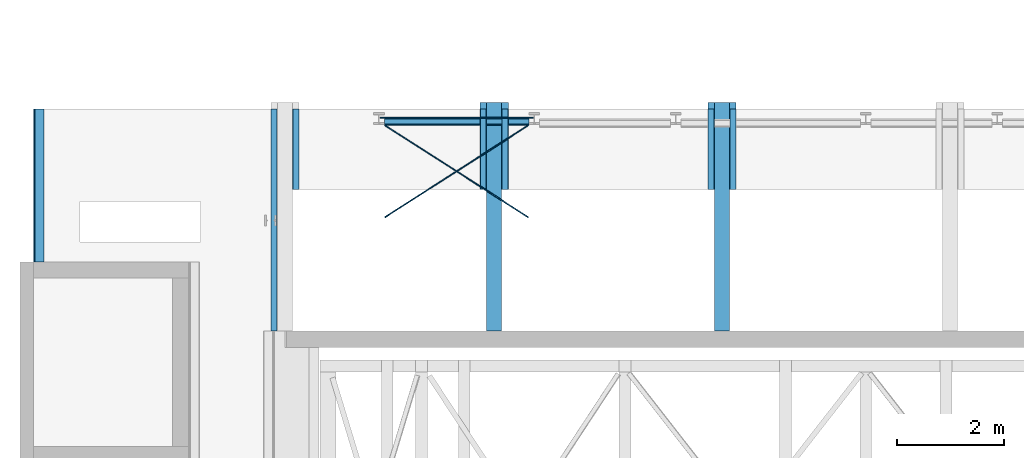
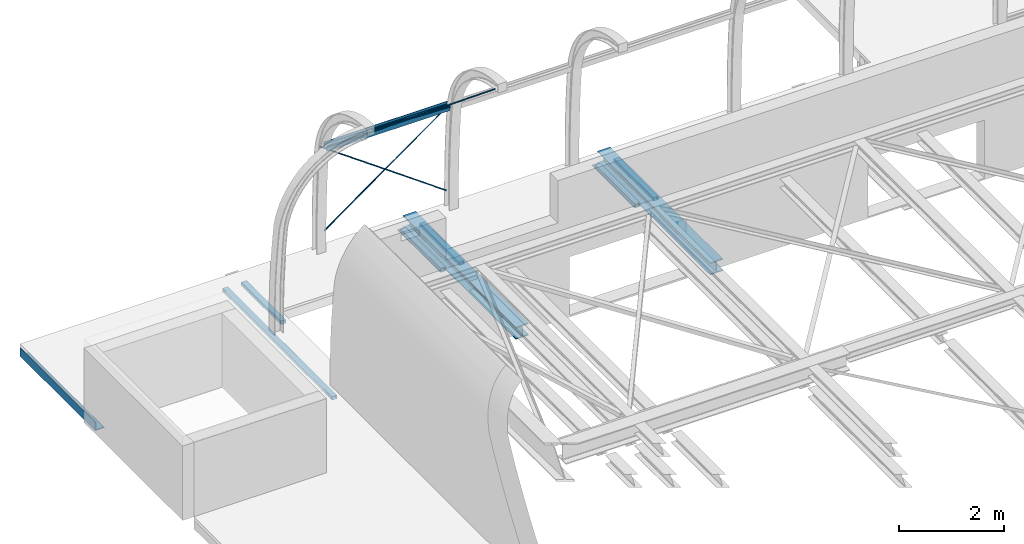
# One storey, part 22 of 38: 14 beams.
"""IFC2X3 building model written with IfcOpenShell, lengths in millimetres."""

from ifc_helpers import new_model, entity, si_unit, converted_unit, derived_unit, direction, frame, frame_2d, origin, origin_2d_with_axis, place, context, subcontext, project, spatial, polyline, circle_curve, parameter, trimmed, segment, composite_curve, rectangle, circle, i_section, outline, extrude, source, transform, mapped, material, material_list, type_object, type_shapes, element, save


model = new_model("IFC2X3")

# Units and contexts
model_context = context("Model", 3, precision=0.01, world=origin(), true_north=direction((6.12303176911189e-17, 1.0)))
body_context = subcontext(model_context, "Body", "Model", "MODEL_VIEW")
ifc_project = project(units=[si_unit("LENGTHUNIT", "METRE", prefix="MILLI"), si_unit("AREAUNIT", "SQUARE_METRE", prefix="MILLI"), si_unit("VOLUMEUNIT", "CUBIC_METRE"), converted_unit("PLANEANGLEUNIT", "DEGREE", entity("IfcRatioMeasure", 0.0174532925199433), si_unit("PLANEANGLEUNIT", "RADIAN"), dimensions=[0, 0, 0, 0, 0, 0, 0]), si_unit("MASSUNIT", "GRAM", prefix="KILO"), derived_unit("MASSDENSITYUNIT", [(si_unit("MASSUNIT", "GRAM", prefix="KILO"), 1), (si_unit("LENGTHUNIT", "METRE"), -3)]), derived_unit("MOMENTOFINERTIAUNIT", [(si_unit("LENGTHUNIT", "METRE"), 4)]), si_unit("TIMEUNIT", "SECOND"), si_unit("FREQUENCYUNIT", "HERTZ"), si_unit("THERMODYNAMICTEMPERATUREUNIT", "DEGREE_CELSIUS"), derived_unit("THERMALTRANSMITTANCEUNIT", [(si_unit("MASSUNIT", "GRAM", prefix="KILO"), 1), (si_unit("THERMODYNAMICTEMPERATUREUNIT", "KELVIN"), -1), (si_unit("TIMEUNIT", "SECOND"), -3)]), derived_unit("VOLUMETRICFLOWRATEUNIT", [(si_unit("LENGTHUNIT", "METRE"), 3), (si_unit("TIMEUNIT", "SECOND"), -1)]), si_unit("ELECTRICCURRENTUNIT", "AMPERE"), si_unit("ELECTRICVOLTAGEUNIT", "VOLT"), si_unit("POWERUNIT", "WATT"), si_unit("FORCEUNIT", "NEWTON", prefix="KILO"), si_unit("ILLUMINANCEUNIT", "LUX"), si_unit("LUMINOUSFLUXUNIT", "LUMEN"), si_unit("LUMINOUSINTENSITYUNIT", "CANDELA"), derived_unit("USERDEFINED", [(si_unit("MASSUNIT", "GRAM", prefix="KILO"), -1), (si_unit("LENGTHUNIT", "METRE"), -2), (si_unit("TIMEUNIT", "SECOND"), 3), (si_unit("LUMINOUSFLUXUNIT", "LUMEN"), 1)]), derived_unit("LINEARVELOCITYUNIT", [(si_unit("LENGTHUNIT", "METRE"), 1), (si_unit("TIMEUNIT", "SECOND"), -1)]), si_unit("PRESSUREUNIT", "PASCAL"), derived_unit("USERDEFINED", [(si_unit("LENGTHUNIT", "METRE"), -2), (si_unit("MASSUNIT", "GRAM", prefix="KILO"), 1), (si_unit("TIMEUNIT", "SECOND"), -2)]), derived_unit("LINEARFORCEUNIT", [(si_unit("MASSUNIT", "GRAM", prefix="KILO"), 1), (si_unit("LENGTHUNIT", "METRE"), 1), (si_unit("TIMEUNIT", "SECOND"), -2), (si_unit("LENGTHUNIT", "METRE"), -1)]), derived_unit("PLANARFORCEUNIT", [(si_unit("MASSUNIT", "GRAM", prefix="KILO"), 1), (si_unit("LENGTHUNIT", "METRE"), 1), (si_unit("TIMEUNIT", "SECOND"), -2), (si_unit("LENGTHUNIT", "METRE"), -2)])], contexts=[model_context])

# Site, building, storey
site_placement = place(None, origin())
site = spatial("IfcSite", under=ifc_project, at=site_placement, Name="Theater aan de Parade", CompositionType="ELEMENT")
building_placement = place(site_placement, origin())
building = spatial("IfcBuilding", under=site, at=building_placement, Name="Theater aan de Parade", CompositionType="ELEMENT")
storey_placement = place(building_placement, frame((0.0, 0.0, 12480.0)))
storey = spatial("IfcBuildingStorey", under=building, at=storey_placement, Name="03 derde verdieping", CompositionType="ELEMENT", Elevation=12480.0)

# Beams
ifc_material_1 = material(Name="00_PBT_MAT_staal_S355")
beam_type_1 = type_object("IfcBeamType", Name="28_PBT_SF_staal_H-profiel:S355_HE140A", PredefinedType="NOTDEFINED")
beam_1_placement = place(storey_placement, frame((17109.527749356, 45200.4717966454, 2025.14938682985)))
element("IfcBeam", 1, at=beam_1_placement, inside=storey, type_object=beam_type_1, material=ifc_material_1, Name="28_PBT_SF_staal_H-profiel:S355_HE140A", ObjectType="28_PBT_SF_staal_H-profiel:S355_HE140A", context=body_context, shape_type="SweptSolid", body=[
    extrude(i_section(OverallWidth=140.000000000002, OverallDepth=133.000000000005, WebThickness=5.49999999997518, FlangeThickness=8.50000000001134, FilletRadius=11.9999999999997, at=frame_2d((-1.84741111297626e-13, -1.08002495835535e-12), x_axis=(0.0, 1.0))), frame((0.0, 291.271993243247, 49.8083923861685), z_axis=(1.0, 0.0, 0.0), x_axis=(0.0, -0.985692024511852, -0.168556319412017)), (0.0, 0.0, 1.0), 2702.24451945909),
])
beam_type_2 = type_object("IfcBeamType", Name="28_PBT_SF_staal_L-profiel:S355_L200x200x20", PredefinedType="NOTDEFINED")
beam_2_placement = place(storey_placement, frame((10610.9125537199, 42870.0, 0.0), z_axis=(0.0, 0.0, 1.0), x_axis=(0.0, 1.0, 0.0)))
element("IfcBeam", 2, at=beam_2_placement, inside=storey, type_object=beam_type_2, material=ifc_material_1, Name="28_PBT_SF_staal_L-profiel:S355_L200x200x20", ObjectType="28_PBT_SF_staal_L-profiel:S355_L200x200x20", context=body_context, shape_type="SweptSolid", body=[
    extrude(outline(composite_curve([segment(polyline([(64.5555555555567, -124.444444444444), (75.5555555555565, -124.444444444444)]), True, "CONTINUOUS"), segment(polyline([(75.5555555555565, -124.444444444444), (75.5555555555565, 75.5555555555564)]), True, "CONTINUOUS"), segment(polyline([(75.5555555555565, 75.5555555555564), (-124.444444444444, 75.5555555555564)]), True, "CONTINUOUS"), segment(polyline([(-124.444444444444, 75.5555555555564), (-124.444444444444, 64.5555555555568)]), True, "CONTINUOUS"), segment(trimmed(circle_curve(frame_2d((-115.444444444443, 64.5555555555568), x_axis=(-1.0, 0.0)), 8.99999999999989), [parameter(0.0)], [parameter(90.0000000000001)], True, "PARAMETER"), True, "CONTINUOUS"), segment(polyline([(-115.444444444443, 55.5555555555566), (37.5555555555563, 55.5555555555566)]), True, "CONTINUOUS"), segment(trimmed(circle_curve(frame_2d((37.5555555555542, 37.5555555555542), x_axis=(0.0, 1.0)), 18.0000000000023), [parameter(270.000000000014)], [parameter(0.0)], True, "PARAMETER"), False, "CONTINUOUS"), segment(polyline([(55.5555555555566, 37.5555555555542), (55.5555555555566, -115.444444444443)]), True, "CONTINUOUS"), segment(trimmed(circle_curve(frame_2d((64.5555555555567, -115.444444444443), x_axis=(-1.0, 0.0)), 9.00000000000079), [parameter(0.0)], [parameter(90.0000000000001)], True, "PARAMETER"), True, "CONTINUOUS")], self_intersect=False)), frame((0.0, -18.7555555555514, -549.444444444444), z_axis=(1.0, 0.0, 0.0), x_axis=(0.0, 0.0, -1.0)), (0.0, 0.0, 1.0), 2852.99999999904),
])
ifc_material_2 = material(Name="00_PBT_MAT_staal_S235")
beam_type_3 = type_object("IfcBeamType", Name="28_PBT_SF_staal_koker:S235_K80x120x6.3", PredefinedType="NOTDEFINED")
beam_3_placement = place(storey_placement, frame((15458.857634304, 44223.308327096, 0.0), z_axis=(0.0, 0.0, 1.0), x_axis=(0.0, 1.0, 0.0)))
element("IfcBeam", 3, at=beam_3_placement, inside=storey, type_object=beam_type_3, material=ifc_material_2, Name="28_PBT_SF_staal_koker:S235_K80x120x6.3", ObjectType="28_PBT_SF_staal_koker:S235_K80x120x6.3", context=body_context, shape_type="SweptSolid", body=[
    extrude(outline(composite_curve([segment(trimmed(circle_curve(frame_2d((-50.5499999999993, -30.5500000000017), x_axis=(1.0, 0.0)), 9.45), [parameter(180.0)], [parameter(270.0)], True, "PARAMETER"), True, "CONTINUOUS"), segment(polyline([(-50.5499999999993, -40.0), (50.5499999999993, -40.0)]), True, "CONTINUOUS"), segment(trimmed(circle_curve(frame_2d((50.5499999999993, -30.5500000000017), x_axis=(1.0, 0.0)), 9.45), [parameter(270.0)], [parameter(0.0)], True, "PARAMETER"), True, "CONTINUOUS"), segment(polyline([(60.0, -30.5500000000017), (60.0, 30.5499999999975)]), True, "CONTINUOUS"), segment(trimmed(circle_curve(frame_2d((50.5499999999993, 30.5499999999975), x_axis=(1.0, 0.0)), 9.45), [parameter(3.56222124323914e-13)], [parameter(90.0000000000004)], True, "PARAMETER"), True, "CONTINUOUS"), segment(polyline([(50.5499999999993, 40.0), (-50.5499999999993, 40.0)]), True, "CONTINUOUS"), segment(trimmed(circle_curve(frame_2d((-50.5499999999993, 30.5499999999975), x_axis=(1.0, 0.0)), 9.45), [parameter(90.0000000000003)], [parameter(180.0)], True, "PARAMETER"), True, "CONTINUOUS"), segment(polyline([(-60.0, 30.5499999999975), (-60.0, -30.5500000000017)]), True, "CONTINUOUS")], self_intersect=False), holes=[composite_curve([segment(trimmed(circle_curve(frame_2d((47.4, 27.3999999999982), x_axis=(1.0, 0.0)), 6.3), [parameter(5.08888749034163e-14)], [parameter(90.0000000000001)], True, "PARAMETER"), False, "CONTINUOUS"), segment(polyline([(53.7000000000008, 27.3999999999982), (53.7000000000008, -27.4000000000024)]), True, "CONTINUOUS"), segment(trimmed(circle_curve(frame_2d((47.4, -27.4000000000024), x_axis=(1.0, 0.0)), 6.3), [parameter(269.999999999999)], [parameter(360.0)], True, "PARAMETER"), False, "CONTINUOUS"), segment(polyline([(47.4, -33.7000000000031), (-47.4000000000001, -33.7000000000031)]), True, "CONTINUOUS"), segment(trimmed(circle_curve(frame_2d((-47.4000000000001, -27.4000000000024), x_axis=(1.0, 0.0)), 6.3), [parameter(180.0)], [parameter(270.0)], True, "PARAMETER"), False, "CONTINUOUS"), segment(polyline([(-53.7000000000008, -27.4000000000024), (-53.7000000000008, 27.3999999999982)]), True, "CONTINUOUS"), segment(trimmed(circle_curve(frame_2d((-47.4000000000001, 27.3999999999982), x_axis=(1.0, 0.0)), 6.3), [parameter(89.9999999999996)], [parameter(180.0)], True, "PARAMETER"), False, "CONTINUOUS"), segment(polyline([(-47.4000000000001, 33.6999999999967), (47.4, 33.6999999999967)]), True, "CONTINUOUS")], self_intersect=False)]), frame((0.0, 0.0, -645.0), z_axis=(1.0, 0.0, 0.0), x_axis=(0.0, 1.0, 0.0)), (0.0, 0.0, 1.0), 1499.69167290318),
])
beam_4_placement = place(storey_placement, frame((15048.857634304, 41573.308327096, 0.0), z_axis=(0.0, 0.0, 1.0), x_axis=(0.0, 1.0, 0.0)))
element("IfcBeam", 4, at=beam_4_placement, inside=storey, type_object=beam_type_3, material=ifc_material_2, Name="28_PBT_SF_staal_koker:S235_K80x120x6.3", ObjectType="28_PBT_SF_staal_koker:S235_K80x120x6.3", context=body_context, shape_type="SweptSolid", body=[
    extrude(outline(composite_curve([segment(polyline([(-30.5499999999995, -60.0), (30.5499999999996, -60.0)]), True, "CONTINUOUS"), segment(trimmed(circle_curve(frame_2d((30.5499999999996, -50.5499999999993), x_axis=(0.0, 1.0)), 9.45), [parameter(180.0)], [parameter(270.0)], True, "PARAMETER"), True, "CONTINUOUS"), segment(polyline([(40.0, -50.5499999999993), (40.0, 50.5499999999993)]), True, "CONTINUOUS"), segment(trimmed(circle_curve(frame_2d((30.5499999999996, 50.5499999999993), x_axis=(0.0, 1.0)), 9.45), [parameter(270.0)], [parameter(360.0)], True, "PARAMETER"), True, "CONTINUOUS"), segment(polyline([(30.5499999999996, 60.0), (-30.5499999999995, 60.0)]), True, "CONTINUOUS"), segment(trimmed(circle_curve(frame_2d((-30.5499999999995, 50.5499999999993), x_axis=(0.0, 1.0)), 9.45), [parameter(0.0)], [parameter(90.0000000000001)], True, "PARAMETER"), True, "CONTINUOUS"), segment(polyline([(-40.0, 50.5499999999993), (-40.0, -50.5499999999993)]), True, "CONTINUOUS"), segment(trimmed(circle_curve(frame_2d((-30.5499999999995, -50.5499999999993), x_axis=(0.0, 1.0)), 9.45), [parameter(90.0)], [parameter(180.0)], True, "PARAMETER"), True, "CONTINUOUS")], self_intersect=False), holes=[composite_curve([segment(polyline([(33.6999999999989, 47.4), (33.6999999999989, -47.4000000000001)]), True, "CONTINUOUS"), segment(trimmed(circle_curve(frame_2d((27.4000000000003, -47.4000000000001), x_axis=(0.0, 1.0)), 6.3), [parameter(180.0)], [parameter(270.0)], True, "PARAMETER"), False, "CONTINUOUS"), segment(polyline([(27.4000000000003, -53.7000000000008), (-27.4000000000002, -53.7000000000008)]), True, "CONTINUOUS"), segment(trimmed(circle_curve(frame_2d((-27.4000000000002, -47.4000000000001), x_axis=(0.0, 1.0)), 6.3), [parameter(90.0)], [parameter(180.0)], True, "PARAMETER"), False, "CONTINUOUS"), segment(polyline([(-33.700000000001, -47.4000000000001), (-33.700000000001, 47.4)]), True, "CONTINUOUS"), segment(trimmed(circle_curve(frame_2d((-27.4000000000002, 47.4), x_axis=(0.0, 1.0)), 6.3), [parameter(4.07110999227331e-13)], [parameter(90.0000000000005)], True, "PARAMETER"), False, "CONTINUOUS"), segment(polyline([(-27.4000000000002, 53.7000000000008), (27.4000000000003, 53.7000000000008)]), True, "CONTINUOUS"), segment(trimmed(circle_curve(frame_2d((27.4000000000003, 47.4), x_axis=(0.0, 1.0)), 6.3), [parameter(270.0)], [parameter(360.0)], True, "PARAMETER"), False, "CONTINUOUS")], self_intersect=False)]), frame((0.0, 0.0, -645.0), z_axis=(1.0, 0.0, 0.0), x_axis=(0.0, 0.0, 1.0)), (0.0, 0.0, 1.0), 4149.69167290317),
])
beam_5_placement = place(storey_placement, frame((19366.7722688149, 44223.308327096, 0.0), z_axis=(0.0, 0.0, 1.0), x_axis=(0.0, 1.0, 0.0)))
element("IfcBeam", 5, at=beam_5_placement, inside=storey, type_object=beam_type_3, material=ifc_material_2, Name="28_PBT_SF_staal_koker:S235_K80x120x6.3", ObjectType="28_PBT_SF_staal_koker:S235_K80x120x6.3", context=body_context, shape_type="SweptSolid", body=[
    extrude(outline(composite_curve([segment(trimmed(circle_curve(frame_2d((-50.5499999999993, -30.5500000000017), x_axis=(1.0, 0.0)), 9.45), [parameter(180.0)], [parameter(270.0)], True, "PARAMETER"), True, "CONTINUOUS"), segment(polyline([(-50.5499999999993, -40.0), (50.5499999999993, -40.0)]), True, "CONTINUOUS"), segment(trimmed(circle_curve(frame_2d((50.5499999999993, -30.5500000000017), x_axis=(1.0, 0.0)), 9.45), [parameter(270.0)], [parameter(0.0)], True, "PARAMETER"), True, "CONTINUOUS"), segment(polyline([(60.0, -30.5500000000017), (60.0, 30.5499999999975)]), True, "CONTINUOUS"), segment(trimmed(circle_curve(frame_2d((50.5499999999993, 30.5499999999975), x_axis=(1.0, 0.0)), 9.45), [parameter(3.56222124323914e-13)], [parameter(90.0000000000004)], True, "PARAMETER"), True, "CONTINUOUS"), segment(polyline([(50.5499999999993, 40.0), (-50.5499999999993, 40.0)]), True, "CONTINUOUS"), segment(trimmed(circle_curve(frame_2d((-50.5499999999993, 30.5499999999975), x_axis=(1.0, 0.0)), 9.45), [parameter(90.0000000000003)], [parameter(180.0)], True, "PARAMETER"), True, "CONTINUOUS"), segment(polyline([(-60.0, 30.5499999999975), (-60.0, -30.5500000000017)]), True, "CONTINUOUS")], self_intersect=False), holes=[composite_curve([segment(trimmed(circle_curve(frame_2d((47.4, 27.3999999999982), x_axis=(1.0, 0.0)), 6.3), [parameter(5.08888749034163e-14)], [parameter(90.0000000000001)], True, "PARAMETER"), False, "CONTINUOUS"), segment(polyline([(53.7000000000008, 27.3999999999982), (53.7000000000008, -27.4000000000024)]), True, "CONTINUOUS"), segment(trimmed(circle_curve(frame_2d((47.4, -27.4000000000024), x_axis=(1.0, 0.0)), 6.3), [parameter(269.999999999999)], [parameter(360.0)], True, "PARAMETER"), False, "CONTINUOUS"), segment(polyline([(47.4, -33.7000000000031), (-47.4000000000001, -33.7000000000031)]), True, "CONTINUOUS"), segment(trimmed(circle_curve(frame_2d((-47.4000000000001, -27.4000000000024), x_axis=(1.0, 0.0)), 6.3), [parameter(180.0)], [parameter(270.0)], True, "PARAMETER"), False, "CONTINUOUS"), segment(polyline([(-53.7000000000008, -27.4000000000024), (-53.7000000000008, 27.3999999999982)]), True, "CONTINUOUS"), segment(trimmed(circle_curve(frame_2d((-47.4000000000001, 27.3999999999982), x_axis=(1.0, 0.0)), 6.3), [parameter(89.9999999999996)], [parameter(180.0)], True, "PARAMETER"), False, "CONTINUOUS"), segment(polyline([(-47.4000000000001, 33.6999999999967), (47.4, 33.6999999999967)]), True, "CONTINUOUS")], self_intersect=False)]), frame((0.0, 0.0, -645.0), z_axis=(1.0, 0.0, 0.0), x_axis=(0.0, 1.0, 0.0)), (0.0, 0.0, 1.0), 1499.69167290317),
])
beam_6_placement = place(storey_placement, frame((18956.772268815, 44223.308327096, 0.0), z_axis=(0.0, 0.0, 1.0), x_axis=(0.0, 1.0, 0.0)))
element("IfcBeam", 6, at=beam_6_placement, inside=storey, type_object=beam_type_3, material=ifc_material_2, Name="28_PBT_SF_staal_koker:S235_K80x120x6.3", ObjectType="28_PBT_SF_staal_koker:S235_K80x120x6.3", context=body_context, shape_type="SweptSolid", body=[
    extrude(outline(composite_curve([segment(polyline([(-30.5499999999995, -60.0), (30.5499999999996, -60.0)]), True, "CONTINUOUS"), segment(trimmed(circle_curve(frame_2d((30.5499999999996, -50.5499999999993), x_axis=(0.0, 1.0)), 9.45), [parameter(180.0)], [parameter(270.0)], True, "PARAMETER"), True, "CONTINUOUS"), segment(polyline([(40.0, -50.5499999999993), (40.0, 50.5499999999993)]), True, "CONTINUOUS"), segment(trimmed(circle_curve(frame_2d((30.5499999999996, 50.5499999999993), x_axis=(0.0, 1.0)), 9.45), [parameter(270.0)], [parameter(360.0)], True, "PARAMETER"), True, "CONTINUOUS"), segment(polyline([(30.5499999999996, 60.0), (-30.5499999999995, 60.0)]), True, "CONTINUOUS"), segment(trimmed(circle_curve(frame_2d((-30.5499999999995, 50.5499999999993), x_axis=(0.0, 1.0)), 9.45), [parameter(0.0)], [parameter(90.0000000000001)], True, "PARAMETER"), True, "CONTINUOUS"), segment(polyline([(-40.0, 50.5499999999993), (-40.0, -50.5499999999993)]), True, "CONTINUOUS"), segment(trimmed(circle_curve(frame_2d((-30.5499999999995, -50.5499999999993), x_axis=(0.0, 1.0)), 9.45), [parameter(90.0)], [parameter(180.0)], True, "PARAMETER"), True, "CONTINUOUS")], self_intersect=False), holes=[composite_curve([segment(polyline([(33.6999999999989, 47.4), (33.6999999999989, -47.4000000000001)]), True, "CONTINUOUS"), segment(trimmed(circle_curve(frame_2d((27.4000000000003, -47.4000000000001), x_axis=(0.0, 1.0)), 6.3), [parameter(180.0)], [parameter(270.0)], True, "PARAMETER"), False, "CONTINUOUS"), segment(polyline([(27.4000000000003, -53.7000000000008), (-27.4000000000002, -53.7000000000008)]), True, "CONTINUOUS"), segment(trimmed(circle_curve(frame_2d((-27.4000000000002, -47.4000000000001), x_axis=(0.0, 1.0)), 6.3), [parameter(90.0)], [parameter(180.0)], True, "PARAMETER"), False, "CONTINUOUS"), segment(polyline([(-33.700000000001, -47.4000000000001), (-33.700000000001, 47.4)]), True, "CONTINUOUS"), segment(trimmed(circle_curve(frame_2d((-27.4000000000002, 47.4), x_axis=(0.0, 1.0)), 6.3), [parameter(4.07110999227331e-13)], [parameter(90.0000000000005)], True, "PARAMETER"), False, "CONTINUOUS"), segment(polyline([(-27.4000000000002, 53.7000000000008), (27.4000000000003, 53.7000000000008)]), True, "CONTINUOUS"), segment(trimmed(circle_curve(frame_2d((27.4000000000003, 47.4), x_axis=(0.0, 1.0)), 6.3), [parameter(270.0)], [parameter(360.0)], True, "PARAMETER"), False, "CONTINUOUS")], self_intersect=False)]), frame((0.0, 0.0, -645.0), z_axis=(1.0, 0.0, 0.0), x_axis=(0.0, 0.0, 1.0)), (0.0, 0.0, 1.0), 1499.69167290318),
])
beam_7_placement = place(storey_placement, frame((23623.8556708, 44223.308327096, 0.0), z_axis=(0.0, 0.0, 1.0), x_axis=(0.0, 1.0, 0.0)))
element("IfcBeam", 7, at=beam_7_placement, inside=storey, type_object=beam_type_3, material=ifc_material_2, Name="28_PBT_SF_staal_koker:S235_K80x120x6.3", ObjectType="28_PBT_SF_staal_koker:S235_K80x120x6.3", context=body_context, shape_type="SweptSolid", body=[
    extrude(outline(composite_curve([segment(trimmed(circle_curve(frame_2d((-50.5499999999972, -30.5500000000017), x_axis=(1.0, 0.0)), 9.45), [parameter(180.0)], [parameter(270.0)], True, "PARAMETER"), True, "CONTINUOUS"), segment(polyline([(-50.5500000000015, -40.0), (50.5500000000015, -40.0)]), True, "CONTINUOUS"), segment(trimmed(circle_curve(frame_2d((50.5500000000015, -30.5500000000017), x_axis=(1.0, 0.0)), 9.45), [parameter(270.0)], [parameter(0.0)], True, "PARAMETER"), True, "CONTINUOUS"), segment(polyline([(60.0, -30.5500000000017), (60.0, 30.5499999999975)]), True, "CONTINUOUS"), segment(trimmed(circle_curve(frame_2d((50.5500000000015, 30.5499999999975), x_axis=(1.0, 0.0)), 9.45), [parameter(3.56222124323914e-13)], [parameter(90.0000000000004)], True, "PARAMETER"), True, "CONTINUOUS"), segment(polyline([(50.5500000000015, 40.0), (-50.5500000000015, 40.0)]), True, "CONTINUOUS"), segment(trimmed(circle_curve(frame_2d((-50.5499999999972, 30.5499999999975), x_axis=(1.0, 0.0)), 9.45), [parameter(90.0000000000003)], [parameter(180.0)], True, "PARAMETER"), True, "CONTINUOUS"), segment(polyline([(-60.0, 30.5499999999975), (-60.0, -30.5500000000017)]), True, "CONTINUOUS")], self_intersect=False), holes=[composite_curve([segment(trimmed(circle_curve(frame_2d((47.4000000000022, 27.3999999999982), x_axis=(1.0, 0.0)), 6.3), [parameter(5.08888749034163e-14)], [parameter(90.0000000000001)], True, "PARAMETER"), False, "CONTINUOUS"), segment(polyline([(53.7000000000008, 27.3999999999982), (53.7000000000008, -27.4000000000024)]), True, "CONTINUOUS"), segment(trimmed(circle_curve(frame_2d((47.4000000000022, -27.4000000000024), x_axis=(1.0, 0.0)), 6.3), [parameter(269.999999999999)], [parameter(360.0)], True, "PARAMETER"), False, "CONTINUOUS"), segment(polyline([(47.3999999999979, -33.7000000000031), (-47.3999999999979, -33.7000000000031)]), True, "CONTINUOUS"), segment(trimmed(circle_curve(frame_2d((-47.3999999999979, -27.4000000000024), x_axis=(1.0, 0.0)), 6.3), [parameter(180.0)], [parameter(270.0)], True, "PARAMETER"), False, "CONTINUOUS"), segment(polyline([(-53.7000000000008, -27.4000000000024), (-53.7000000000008, 27.3999999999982)]), True, "CONTINUOUS"), segment(trimmed(circle_curve(frame_2d((-47.3999999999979, 27.3999999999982), x_axis=(1.0, 0.0)), 6.3), [parameter(89.9999999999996)], [parameter(180.0)], True, "PARAMETER"), False, "CONTINUOUS"), segment(polyline([(-47.3999999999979, 33.6999999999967), (47.3999999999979, 33.6999999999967)]), True, "CONTINUOUS")], self_intersect=False)]), frame((0.0, 0.0, -645.0), z_axis=(1.0, 0.0, 0.0), x_axis=(0.0, 1.0, 0.0)), (0.0, 0.0, 1.0), 1499.69167290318),
])
beam_8_placement = place(storey_placement, frame((23213.8556708, 44223.308327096, 0.0), z_axis=(0.0, 0.0, 1.0), x_axis=(0.0, 1.0, 0.0)))
element("IfcBeam", 8, at=beam_8_placement, inside=storey, type_object=beam_type_3, material=ifc_material_2, Name="28_PBT_SF_staal_koker:S235_K80x120x6.3", ObjectType="28_PBT_SF_staal_koker:S235_K80x120x6.3", context=body_context, shape_type="SweptSolid", body=[
    extrude(outline(composite_curve([segment(polyline([(-30.5499999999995, -60.0), (30.5499999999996, -60.0)]), True, "CONTINUOUS"), segment(trimmed(circle_curve(frame_2d((30.5499999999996, -50.5500000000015), x_axis=(0.0, 1.0)), 9.45), [parameter(180.0)], [parameter(270.0)], True, "PARAMETER"), True, "CONTINUOUS"), segment(polyline([(40.0, -50.5500000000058), (40.0, 50.5499999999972)]), True, "CONTINUOUS"), segment(trimmed(circle_curve(frame_2d((30.5499999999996, 50.5499999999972), x_axis=(0.0, 1.0)), 9.45), [parameter(270.0)], [parameter(360.0)], True, "PARAMETER"), True, "CONTINUOUS"), segment(polyline([(30.5499999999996, 60.0), (-30.5499999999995, 60.0)]), True, "CONTINUOUS"), segment(trimmed(circle_curve(frame_2d((-30.5499999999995, 50.5499999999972), x_axis=(0.0, 1.0)), 9.45), [parameter(0.0)], [parameter(90.0000000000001)], True, "PARAMETER"), True, "CONTINUOUS"), segment(polyline([(-40.0, 50.5499999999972), (-40.0, -50.5500000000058)]), True, "CONTINUOUS"), segment(trimmed(circle_curve(frame_2d((-30.5499999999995, -50.5500000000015), x_axis=(0.0, 1.0)), 9.45), [parameter(90.0)], [parameter(180.0)], True, "PARAMETER"), True, "CONTINUOUS")], self_intersect=False), holes=[composite_curve([segment(polyline([(33.6999999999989, 47.3999999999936), (33.6999999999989, -47.4000000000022)]), True, "CONTINUOUS"), segment(trimmed(circle_curve(frame_2d((27.4000000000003, -47.4000000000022), x_axis=(0.0, 1.0)), 6.3), [parameter(180.0)], [parameter(270.0)], True, "PARAMETER"), False, "CONTINUOUS"), segment(polyline([(27.4000000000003, -53.7000000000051), (-27.4000000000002, -53.7000000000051)]), True, "CONTINUOUS"), segment(trimmed(circle_curve(frame_2d((-27.4000000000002, -47.4000000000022), x_axis=(0.0, 1.0)), 6.3), [parameter(90.0)], [parameter(180.0)], True, "PARAMETER"), False, "CONTINUOUS"), segment(polyline([(-33.700000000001, -47.4000000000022), (-33.700000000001, 47.3999999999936)]), True, "CONTINUOUS"), segment(trimmed(circle_curve(frame_2d((-27.4000000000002, 47.3999999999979), x_axis=(0.0, 1.0)), 6.3), [parameter(4.07110999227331e-13)], [parameter(90.0000000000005)], True, "PARAMETER"), False, "CONTINUOUS"), segment(polyline([(-27.4000000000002, 53.6999999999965), (27.4000000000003, 53.6999999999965)]), True, "CONTINUOUS"), segment(trimmed(circle_curve(frame_2d((27.4000000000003, 47.3999999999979), x_axis=(0.0, 1.0)), 6.3), [parameter(270.0)], [parameter(360.0)], True, "PARAMETER"), False, "CONTINUOUS")], self_intersect=False)]), frame((0.0, 0.0, -645.0), z_axis=(1.0, 0.0, 0.0), x_axis=(0.0, 0.0, 1.0)), (0.0, 0.0, 1.0), 1499.69167290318),
])
ifc_material_3 = material(Name="00_PBT_MAT_Lucht")
ifc_material_list_1 = material_list([ifc_material_3, ifc_material_1])
beam_type_4 = type_object("IfcBeamType", Name="28_PBT_SF_staal_H-profiel_met_onderplaat (void):S355_HE280B + onderplaat d=15", PredefinedType="BEAM", material=ifc_material_list_1)
shared_shape_1 = source(origin(), body_context, "Body", "SweptSolid", [
    extrude(i_section(OverallWidth=280.000000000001, OverallDepth=280.000000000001, WebThickness=10.5000000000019, FlangeThickness=18.0000000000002, FilletRadius=23.9999999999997, at=frame_2d((-2.1600499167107e-12, 0.0), x_axis=(1.0, 0.0))), frame((23418.8556708, 41573.308327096, 11935.0), z_axis=(0.0, 1.0, 0.0), x_axis=(-1.0, 0.0, 0.0)), (0.0, 0.0, 1.0), 4274.69167290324),
    extrude(rectangle(XDim=15.0000000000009, YDim=530.000000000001, at=frame_2d((0.0, 1.08268949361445e-12), x_axis=(0.0, 1.0))), frame((23418.8556708, 44223.308327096, 11787.5), z_axis=(0.0, 1.0, 0.0), x_axis=(-1.0, 0.0, 0.0)), (0.0, 0.0, 1.0), 1624.69167290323),
])
type_shapes(beam_type_4, [shared_shape_1])
beam_9_placement = place(storey_placement, frame((0.0, 0.0, -12480.0)))
element("IfcBeam", 9, at=beam_9_placement, inside=storey, type_object=beam_type_4, material=ifc_material_1, Name="28_PBT_SF_staal_H-profiel_met_onderplaat (void):S355_HE280B + onderplaat d=15", ObjectType="28_PBT_SF_staal_H-profiel_met_onderplaat (void):S355_HE280B + onderplaat d=15", context=body_context, shape_type="MappedRepresentation", body=[
    mapped(shared_shape_1, transform((0.0, 0.0, 0.0), scale=1.0)),
])
ifc_material_list_2 = material_list([ifc_material_1, ifc_material_3])
beam_type_5 = type_object("IfcBeamType", Name="28_PBT_SF_staal_H-profiel_met_onderplaat (void):S355_HE280B + onderplaat d=15", PredefinedType="BEAM", material=ifc_material_list_2)
shared_shape_2 = source(origin(), body_context, "Body", "SweptSolid", [
    extrude(i_section(OverallWidth=279.999999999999, OverallDepth=280.000000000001, WebThickness=10.4999999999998, FlangeThickness=18.0000000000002, FilletRadius=24.0000000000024, at=frame_2d((-2.1600499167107e-12, 0.0), x_axis=(1.0, 0.0))), frame((19161.7722688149, 41573.308327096, 11935.0), z_axis=(0.0, 1.0, 0.0), x_axis=(-1.0, 0.0, 0.0)), (0.0, 0.0, 1.0), 4274.69167290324),
    extrude(rectangle(XDim=15.0000000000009, YDim=529.999999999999, at=frame_2d((1.08002495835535e-12, 1.08268949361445e-12), x_axis=(0.0, 1.0))), frame((19161.7722688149, 44223.308327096, 11787.5), z_axis=(0.0, 1.0, 0.0), x_axis=(-1.0, 0.0, 0.0)), (0.0, 0.0, 1.0), 1624.69167290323),
])
type_shapes(beam_type_5, [shared_shape_2])
beam_10_placement = place(storey_placement, frame((0.0, 0.0, -12480.0)))
element("IfcBeam", 10, at=beam_10_placement, inside=storey, type_object=beam_type_5, material=ifc_material_1, Name="28_PBT_SF_staal_H-profiel_met_onderplaat (void):S355_HE280B + onderplaat d=15", ObjectType="28_PBT_SF_staal_H-profiel_met_onderplaat (void):S355_HE280B + onderplaat d=15", context=body_context, shape_type="MappedRepresentation", body=[
    mapped(shared_shape_2, transform((0.0, 0.0, 0.0), scale=1.0)),
])
beam_type_6 = type_object("IfcBeamType", Name="28_PBT_SF_staal_massief_rond:S355_D20", PredefinedType="NOTDEFINED")
beam_11_placement = place(storey_placement, frame((17009.5277493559, 43629.2767436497, 3616.29193172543), z_axis=(0.348856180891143, 0.22375346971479, 0.910073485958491), x_axis=(0.766044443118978, 0.491334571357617, -0.414446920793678)))
element("IfcBeam", 11, at=beam_11_placement, inside=storey, type_object=beam_type_6, material=ifc_material_1, Name="28_PBT_SF_staal_massief_rond:S355_D20", ObjectType="28_PBT_SF_staal_massief_rond:S355_D20", context=body_context, shape_type="SweptSolid", body=[
    extrude(circle(Radius=10.0000000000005, at=origin_2d_with_axis()), frame((151.631725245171, 0.0, 0.0), z_axis=(1.0, 0.0, 0.0), x_axis=(0.0, 0.839911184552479, -0.542723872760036)), (0.0, 0.0, 1.0), 3485.34770063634),
])
beam_12_placement = place(storey_placement, frame((19911.7722688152, 43629.2767436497, 3616.29193172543), z_axis=(-0.348856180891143, 0.22375346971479, 0.910073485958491), x_axis=(-0.766044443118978, 0.491334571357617, -0.414446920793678)))
element("IfcBeam", 12, at=beam_12_placement, inside=storey, type_object=beam_type_6, material=ifc_material_1, Name="28_PBT_SF_staal_massief_rond:S355_D20", ObjectType="28_PBT_SF_staal_massief_rond:S355_D20", context=body_context, shape_type="SweptSolid", body=[
    extrude(circle(Radius=9.99999999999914, at=origin_2d_with_axis()), frame((151.631725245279, 0.0, 0.0), z_axis=(1.0, 0.0, 0.0), x_axis=(0.0, 0.839911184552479, 0.542723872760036)), (0.0, 0.0, 1.0), 3485.34770063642),
])
beam_13_placement = place(storey_placement, frame((17035.7802537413, 45558.3619328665, 2059.87255062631), z_axis=(0.582606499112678, 0.0, 0.812754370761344), x_axis=(0.812754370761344, 0.0, -0.582606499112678)))
element("IfcBeam", 13, at=beam_13_placement, inside=storey, type_object=beam_type_6, material=ifc_material_1, Name="28_PBT_SF_staal_massief_rond:S355_D20", ObjectType="28_PBT_SF_staal_massief_rond:S355_D20", context=body_context, shape_type="SweptSolid", body=[
    extrude(circle(Radius=9.99999999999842, at=frame_2d((-9.38080975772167e-25, 3.02198083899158e-12), x_axis=(1.0, 0.0))), frame((0.0, 0.0, 0.0), z_axis=(1.0, 0.0, 0.0), x_axis=(0.0, 1.0, 0.0)), (0.0, 0.0, 1.0), 3395.66795191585),
])
beam_14_placement = place(storey_placement, frame((19885.5197644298, 45558.3619328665, 2059.87255062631), z_axis=(-0.582606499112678, 0.0, 0.812754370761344), x_axis=(-0.812754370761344, 0.0, -0.582606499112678)))
element("IfcBeam", 14, at=beam_14_placement, inside=storey, type_object=beam_type_6, material=ifc_material_1, Name="28_PBT_SF_staal_massief_rond:S355_D20", ObjectType="28_PBT_SF_staal_massief_rond:S355_D20", context=body_context, shape_type="SweptSolid", body=[
    extrude(circle(Radius=9.99999999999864, at=frame_2d((-4.69040487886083e-25, 1.76020998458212e-12), x_axis=(1.0, 0.0))), frame((0.0, 0.0, 0.0), z_axis=(1.0, 0.0, 0.0), x_axis=(0.0, 1.0, 0.0)), (0.0, 0.0, 1.0), 3395.66795191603),
])

save(model, "model.ifc")
